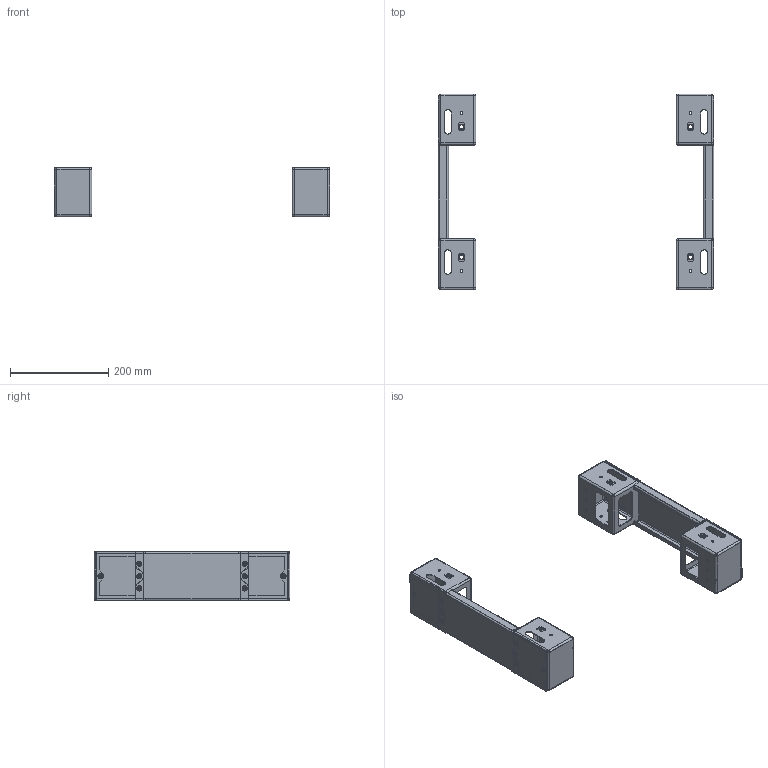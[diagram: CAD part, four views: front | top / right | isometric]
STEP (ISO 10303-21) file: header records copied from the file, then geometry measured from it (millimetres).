
FILE_DESCRIPTION(('STEP AP203'), '1');
FILE_NAME('3990 ÑÁ Ïåðåäíèå è çàäíèå ýëåìåíòû öîêîëÿ', '', ('UNSPECIFIED'), ('UNSPECIFIED'), 'C3D Converter', 'C3D Toolkit', '');
FILE_SCHEMA(('CONFIG_CONTROL_DESIGN'));
Length unit declared in the file: millimetre
Products named in the file (8): 3990.10.40 СБ; 3102; 3101; 3103; 3105
Assembly tree (26 placements, depth 3):
  3990.10.40 СБ
    3102  x4
      3101
      (unnamed)
      3103
      (unnamed)
    (unnamed)  x4
    3105  x2
    (unnamed)  x8
Bounding box: 560 x 398 x 100.5 mm (x, y, z)
Volume: 437730.4 mm3; surface area: 506571.6 mm2
Topology: 46 solids, 46 shells, 2512 faces, 6964 edges, 4604 vertices
Faces by surface type: cylinder 1496, plane 836, cone 100, sphere 64, torus 16
Full cylindrical faces by diameter (mm): 4.134 x16, 5 x24, 5.8 x16, 6.9 x16, 7 x12, 7.2 x16, 8.376 x4, 9.2 x16
Entity records: 12140 total; most frequent: CARTESIAN_POINT 2766, DIRECTION 1887, ORIENTED_EDGE 1652, EDGE_CURVE 826, AXIS2_PLACEMENT_3D 690, VERTEX_POINT 539, LINE 507, VECTOR 507
